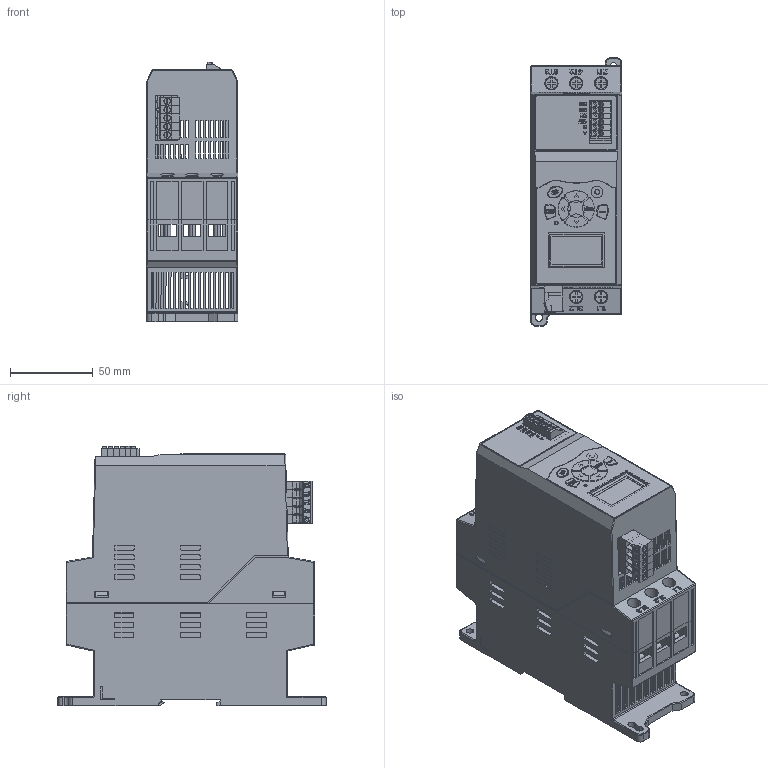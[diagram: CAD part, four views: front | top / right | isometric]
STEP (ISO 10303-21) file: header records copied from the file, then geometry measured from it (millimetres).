
FILE_DESCRIPTION (( 'STEP AP203' ), '1' );
FILE_NAME ('SBIM-1.1_2.6-04.STEP', '2025-02-18T12:13:59', ( '' ), ( '' ), 'SwSTEP 2.0', 'SolidWorks 2021', '' );
FILE_SCHEMA (( 'CONFIG_CONTROL_DESIGN' ));
Length unit declared in the file: millimetre
Products named in the file (35): Øèíà ñîåäèíèòåëüíàÿ 8800-11-W; 趶槶 瀇僗 8800-11-PCB-1; Äèñïëåé 8800-11 12864COG; Êëåììíàÿ êîëîäêà 8800-508-5P-00 Ï; Øèíà ñîåäèíèòåëüíàÿ ìàëàÿ 8800-11-100; Êîííåêòîð 254900001; Êíîïêà ñòîïà; Êíîïêà ïóñêà; RJ45; Ïëàòà ïàíåëè óïðàâëåíèÿ 8800-11-PCB-200; Âèíò ñïåöèàëüíûé ñ íåâûïàäàþùåé øàéáîé Ì4õ12 11-0002; ﾊ煇鳫 粢炅齏; Çàùåëêà DIN-ðåéêè; ﾄ濵; Îñíîâà ïëàòû 8800-11-PCB-2; Êîííåêòîð 2540001; 扻豵鵨 膰臇樏襜譇 2540001; Êðûøêà; Ïàíåëü óïðàâëåíèÿ; SBIM-1.1_2.6-04; Ëèöåâàÿ ôàëüøïàíåëü; Êëåììà ñèëîâàÿ MCI04422-60A; ﾏ褊鶴 1D5-000001; Ïëàòà ñèëîâûõ ââîäîâ_âûâîäîâ 8800-11-PCB00; 抔樦憵 PL2D5B-5-508-05; 扱闀罻 6-6-80001; 扻豵鵨; Íîæêà êîííåêòîðà 2540001; Êëåììíàÿ êîëîäêà 3D5-60001; 抔樦憵 3D-00001; Ëèöåâàÿ ïàíåëü; 抔樦憵 3D5-00001; Îñíîâà ïëàòû 8800-11-PCB00; Îñíîâà ïëàòû 8800-11-PCB-1; Øèëüä ðåëå
Assembly tree (78 placements, depth 5):
  SBIM-1.1_2.6-04
    趶槶 瀇僗 8800-11-PCB-1
      Îñíîâà ïëàòû 8800-11-PCB-1
      Êîííåêòîð 254900001  x10
      Êëåììíàÿ êîëîäêà 8800-508-5P-00 Ï
      Ïëàòà ïàíåëè óïðàâëåíèÿ 8800-11-PCB-200
        Îñíîâà ïëàòû 8800-11-PCB-2
        Äèñïëåé 8800-11 12864COG
        扱闀罻 6-6-80001  x8
        Êëåììíàÿ êîëîäêà 3D5-60001
          抔樦憵 3D5-00001  x3
          抔樦憵 3D-00001  x3
          ﾏ褊鶴 1D5-000001
        RJ45
        Êîííåêòîð 2540001  x10
          扻豵鵨 膰臇樏襜譇 2540001
          Íîæêà êîííåêòîðà 2540001
      Ïëàòà ñèëîâûõ ââîäîâ_âûâîäîâ 8800-11-PCB00
        Îñíîâà ïëàòû 8800-11-PCB00
        Êëåììà ñèëîâàÿ MCI04422-60A  x6
      抔樦憵 PL2D5B-5-508-05  x5
      Âèíò ñïåöèàëüíûé ñ íåâûïàäàþùåé øàéáîé Ì4õ12 11-0002  x6
      Øèíà ñîåäèíèòåëüíàÿ 8800-11-W
      Øèíà ñîåäèíèòåëüíàÿ ìàëàÿ 8800-11-100
    Ëèöåâàÿ ôàëüøïàíåëü
    Ïàíåëü óïðàâëåíèÿ
      Ëèöåâàÿ ïàíåëü
      Êíîïêà ñòîïà
      Êíîïêà ïóñêà
    Øèëüä ðåëå
    扻豵鵨
      ﾄ濵
      ﾊ煇鳫 粢炅齏
      Êðûøêà
      Çàùåëêà DIN-ðåéêè
Bounding box: 55.3 x 162 x 156.7 mm (x, y, z)
Volume: 158559.1 mm3; surface area: 268243.4 mm2
Topology: 88 solids, 89 shells, 6117 faces, 16823 edges, 11137 vertices
Faces by surface type: plane 3869, cylinder 1761, bspline 428, torus 47, cone 12
Entity records: 176254 total; most frequent: CARTESIAN_POINT 60387, ORIENTED_EDGE 24830, DIRECTION 19854, EDGE_CURVE 12415, VERTEX_POINT 8234, LINE 8190, VECTOR 8190, AXIS2_PLACEMENT_3D 5832
